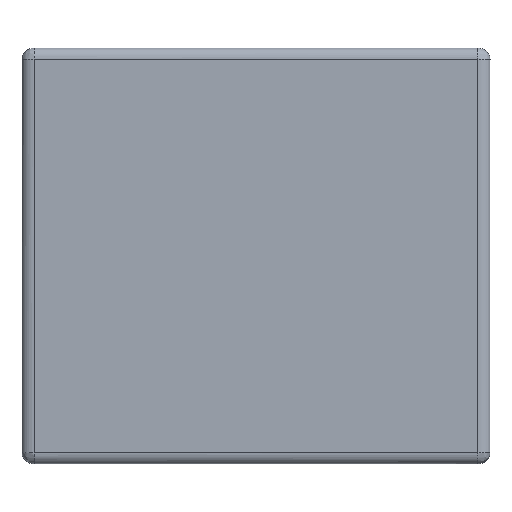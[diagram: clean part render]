
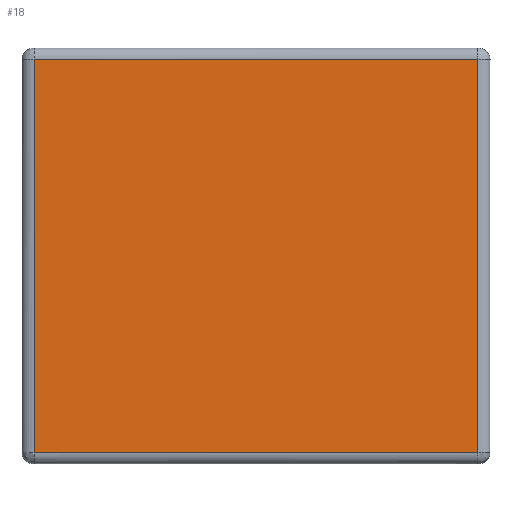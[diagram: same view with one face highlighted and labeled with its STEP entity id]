
A CAD part, top view. The second image highlights one B-rep face of the part: STEP entity #18.
In plain terms, the highlighted planar face has unit normal (0, 0, 1).
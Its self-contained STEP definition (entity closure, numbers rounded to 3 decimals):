
#18=ADVANCED_FACE('',(#44),#332,.T.);
#44=FACE_OUTER_BOUND('',#70,.T.);
#70=EDGE_LOOP('',(#108,#109,#110,#111));
#108=ORIENTED_EDGE('',*,*,#207,.F.);
#109=ORIENTED_EDGE('',*,*,#205,.F.);
#110=ORIENTED_EDGE('',*,*,#206,.F.);
#111=ORIENTED_EDGE('',*,*,#204,.F.);
#204=EDGE_CURVE('',#300,#301,#276,.T.);
#205=EDGE_CURVE('',#302,#303,#277,.T.);
#206=EDGE_CURVE('',#301,#302,#278,.T.);
#207=EDGE_CURVE('',#303,#300,#279,.T.);
#276=B_SPLINE_CURVE_WITH_KNOTS('',1,(#694,#695),.UNSPECIFIED.,.F.,.F.,(2,
2),(10.,370.),.UNSPECIFIED.);
#277=B_SPLINE_CURVE_WITH_KNOTS('',1,(#696,#697),.UNSPECIFIED.,.F.,.F.,(2,
2),(10.,370.),.UNSPECIFIED.);
#278=B_SPLINE_CURVE_WITH_KNOTS('',1,(#698,#699),.UNSPECIFIED.,.F.,.F.,(2,
2),(10.,370.),.UNSPECIFIED.);
#279=B_SPLINE_CURVE_WITH_KNOTS('',1,(#700,#701),.UNSPECIFIED.,.F.,.F.,(2,
2),(10.,370.),.UNSPECIFIED.);
#300=VERTEX_POINT('',#654);
#301=VERTEX_POINT('',#655);
#302=VERTEX_POINT('',#656);
#303=VERTEX_POINT('',#657);
#332=PLANE('',#426);
#426=AXIS2_PLACEMENT_3D('',#444,#435,$);
#435=DIRECTION('',(0.,0.,1.));
#444=CARTESIAN_POINT('',(-174.525,-154.999,19.947));
#654=CARTESIAN_POINT('',(165.339,-146.841,19.947));
#655=CARTESIAN_POINT('',(-165.339,-146.841,19.947));
#656=CARTESIAN_POINT('',(-165.339,146.84,19.947));
#657=CARTESIAN_POINT('',(165.339,146.84,19.947));
#694=CARTESIAN_POINT('',(165.339,-146.841,19.947));
#695=CARTESIAN_POINT('',(-165.339,-146.841,19.947));
#696=CARTESIAN_POINT('',(-165.339,146.84,19.947));
#697=CARTESIAN_POINT('',(165.339,146.84,19.947));
#698=CARTESIAN_POINT('',(-165.339,-146.841,19.947));
#699=CARTESIAN_POINT('',(-165.339,146.84,19.947));
#700=CARTESIAN_POINT('',(165.339,146.84,19.947));
#701=CARTESIAN_POINT('',(165.339,-146.841,19.947));
